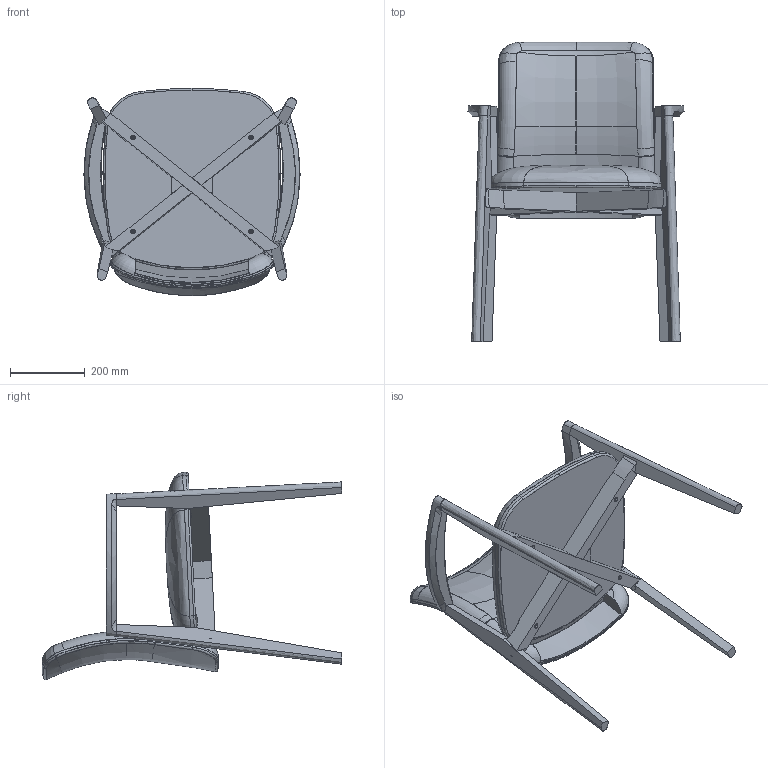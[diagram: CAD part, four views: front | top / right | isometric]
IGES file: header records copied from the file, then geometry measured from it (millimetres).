
Start section: SolidWorks IGES file using analytic representation for surfaces
Global section: file name: C:\Users\furioso\Desktop\FG53411-00-00.IGS; native system: SolidWorks 2020; preprocessor: SolidWorks 2020; author: Furioso; date: 230626.104408; units: millimetre
Bounding box: 576.99 x 799.85 x 553.38 mm (x, y, z)
Surface area: 1545741 mm2 (no closed solid volume)
Topology: 0 solids, 0 shells, 325 faces, 4858 edges, 4854 vertices
Faces by surface type: bspline 235, revolution 90
